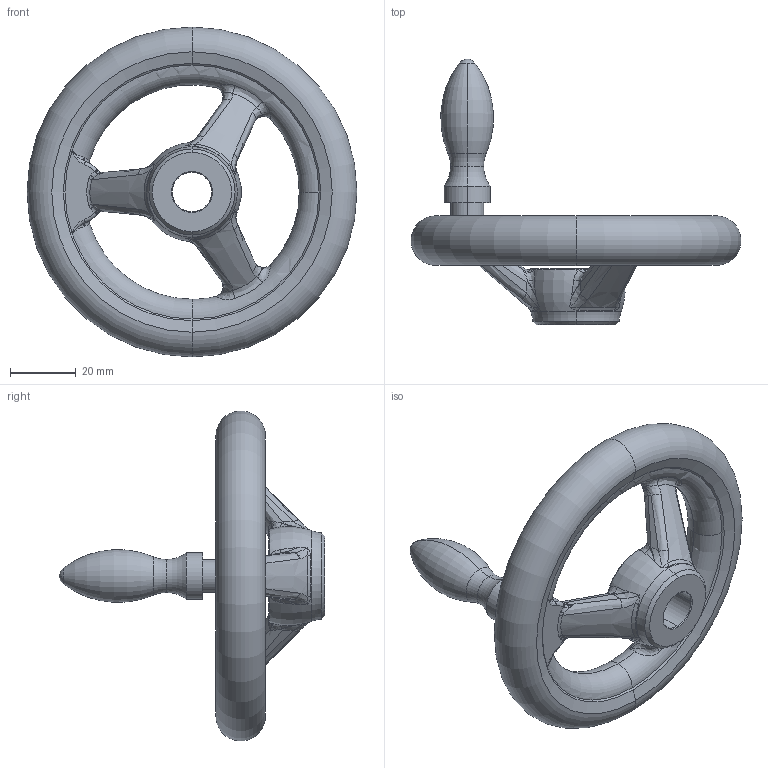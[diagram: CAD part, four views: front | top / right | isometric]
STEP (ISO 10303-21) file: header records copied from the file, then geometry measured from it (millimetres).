
FILE_DESCRIPTION (( 'STEP AP203' ), '1' );
FILE_NAME ('din950_d4_100x12.step', '2010-03-23T10:12:31', ( '_' ), ( '_' ), 'SwSTEP 2.0', 'SolidWorks 2010', '' );
FILE_SCHEMA (( 'CONFIG_CONTROL_DESIGN' ));
Length unit declared in the file: millimetre
Products named in the file (1): din950_d4_100x12
Bounding box: 100 x 80.5 x 100 mm (x, y, z)
Volume: 74069.5 mm3; surface area: 20184.8 mm2
Topology: 1 solids, 1 shells, 208 faces, 502 edges, 270 vertices
Faces by surface type: bspline 130, torus 27, cone 18, cylinder 12, plane 11, sphere 10
Entity records: 23276 total; most frequent: CARTESIAN_POINT 19220, ORIENTED_EDGE 960, DIRECTION 623, EDGE_CURVE 480, AXIS2_PLACEMENT_3D 297, VERTEX_POINT 270, B_SPLINE_CURVE_WITH_KNOTS 229, CIRCLE 218
